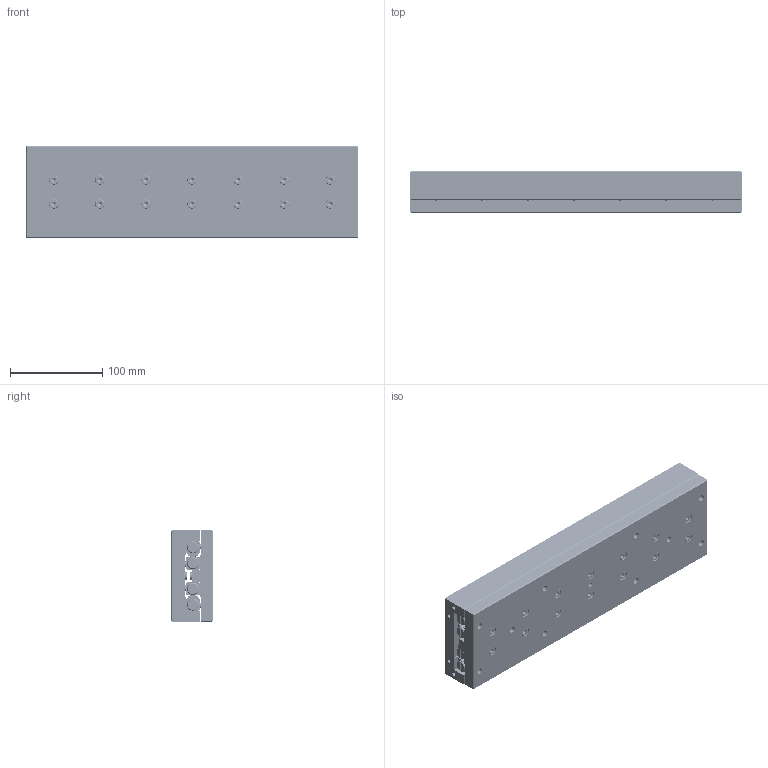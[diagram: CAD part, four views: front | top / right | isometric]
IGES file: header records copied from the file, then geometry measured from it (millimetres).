
Start section: SolidWorks IGES file using analytic representation for surfaces
Global section: file name: C:\Documents and Settings\IanO.IANOHOME\My Documents\Wix and Auto CAD Work\CAD Models\Parametric Models\Auto Models\L1020\L1020_IGES\L1020.100-360.igs; native system: SolidWorks 2009; preprocessor: SolidWorks 2009; author: IanO; date: 110922.163025; units: millimetre
Bounding box: 360 x 45 x 100 mm (x, y, z)
Surface area: 359548.2 mm2 (no closed solid volume)
Topology: 0 solids, 0 shells, 2214 faces, 32628 edges, 32558 vertices
Faces by surface type: bspline 1376, revolution 838
